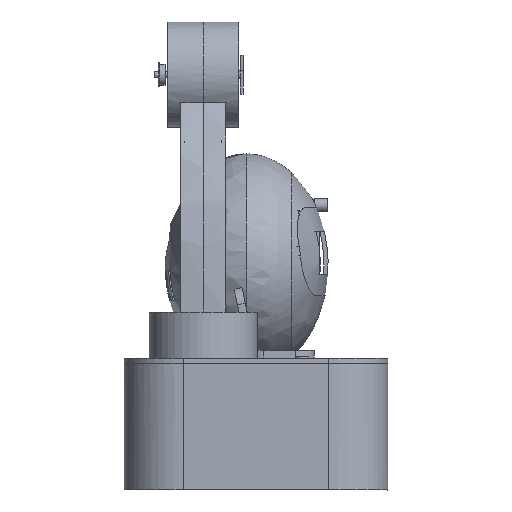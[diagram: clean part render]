
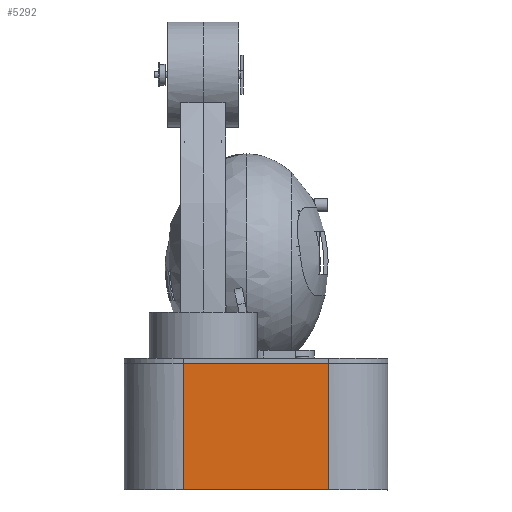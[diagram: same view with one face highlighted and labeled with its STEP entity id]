
A CAD part, left-side view. The second image highlights one B-rep face of the part: STEP entity #5292.
In plain terms, the highlighted planar face has unit normal (-1, 0, 0).
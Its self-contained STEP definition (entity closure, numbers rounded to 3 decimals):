
#114=DIRECTION('',(-1.0,0.0,0.0));
#682=DIRECTION('',(0.0,1.0,0.0));
#1072=DIRECTION('',(0.0,-1.,0.0));
#4059=DIRECTION('',(0.0,-1.0,0.));
#4060=VECTOR('',#4059,110.);
#4061=CARTESIAN_POINT('',(-320.0,55.,0.));
#4062=LINE('',#4061,#4060);
#4063=CARTESIAN_POINT('',(-320.0,-55.,0.));
#4064=VERTEX_POINT('',#4063);
#4065=VERTEX_POINT('',#4061);
#4066=EDGE_CURVE('',#4065,#4064,#4062,.T.);
#4804=CARTESIAN_POINT('',(-320.,55.,96.));
#4808=VERTEX_POINT('',#4804);
#4942=CARTESIAN_POINT('',(-320.,-55.,96.));
#4943=VERTEX_POINT('',#4942);
#4946=VECTOR('',#682,110.);
#4947=LINE('',#4942,#4946);
#4948=EDGE_CURVE('',#4943,#4808,#4947,.T.);
#5276=AXIS2_PLACEMENT_3D('',#4061,#114,#1072);
#5277=PLANE('',#5276);
#5278=DIRECTION('',(0.,0.0,-1.0));
#5279=VECTOR('',#5278,96.);
#5280=LINE('',#4942,#5279);
#5281=EDGE_CURVE('',#4943,#4064,#5280,.T.);
#5282=ORIENTED_EDGE('',*,*,#5281,.F.);
#5283=ORIENTED_EDGE('',*,*,#4066,.T.);
#5284=DIRECTION('',(0.,0.0,1.0));
#5285=VECTOR('',#5284,96.);
#5286=LINE('',#4061,#5285);
#5287=EDGE_CURVE('',#4065,#4808,#5286,.T.);
#5288=ORIENTED_EDGE('',*,*,#5287,.F.);
#5289=ORIENTED_EDGE('',*,*,#4948,.T.);
#5290=EDGE_LOOP('',(#5289,#5288,#5283,#5282));
#5291=FACE_BOUND('',#5290,.T.);
#5292=ADVANCED_FACE('',(#5291),#5277,.T.);
